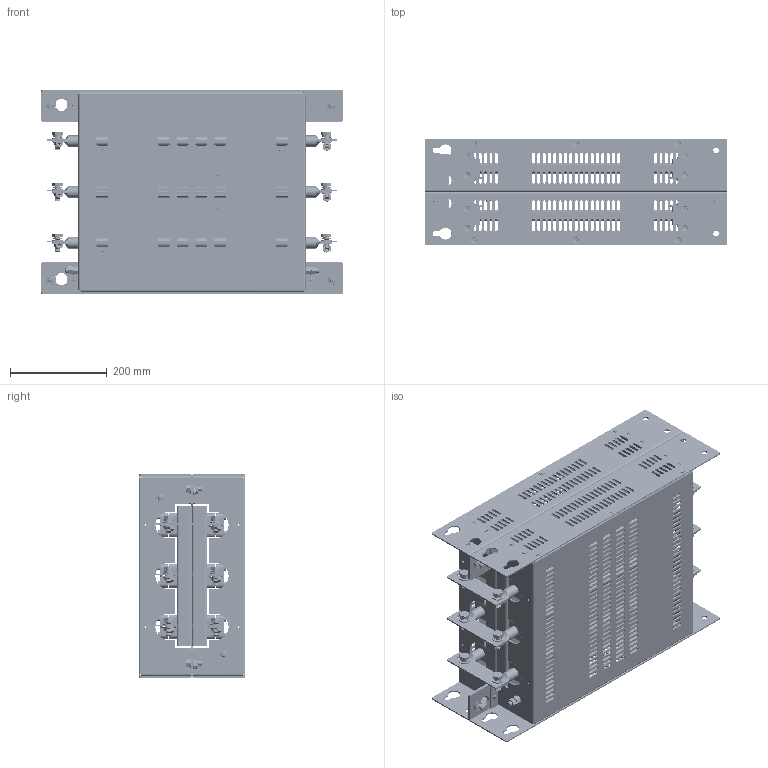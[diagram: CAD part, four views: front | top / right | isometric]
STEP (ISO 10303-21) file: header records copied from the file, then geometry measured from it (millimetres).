
FILE_DESCRIPTION (( 'STEP AP214' ), '1' );
FILE_NAME ('MIF3800.STEP', '2015-01-20T15:34:16', ( '' ), ( '' ), 'SwSTEP 2.0', 'SolidWorks 2014', '' );
FILE_SCHEMA (( 'AUTOMOTIVE_DESIGN' ));
Length unit declared in the file: millimetre
Products named in the file (30): CBA003; CBA003-SCR; CBA003-BODY; BOX281; PEM HFH-M10-30 ZI--C_PEM HFH-M10-30 ZI--C; WSH149; ISO 4017 - M10 x 25-N_ISO 4017 - M10 x 25-N; PEM S-M4-1 ZI--N_PEM S-M4-1 ZI--N; PEM SS-M5-1 ZI--N_PEM SS-M5-1 ZI--N; SCR229_SCR229; WSH142; BOX695; WSH167; PEM SSS-4mm-16 ZI (555 412)_PEM SSS-4mm-16 ZI (555 412); COP425; PEM S-M6-0 ZI--N_PEM S-M6-0 ZI--N; MIF3400_MIF3800 VIEW; PEM FH-M6-12 ZI--S_PEM FH-M6-12 ZI--S; SCR239_SCR239; PEM FH-M5-15 ZI--S_PEM FH-M5-15 ZI--S; NUT103_NUT103; PEM SO-M4-12 ZI--N_PEM SO-M4-12 ZI--N; NUT53; NUT63; WSH140; MIF3800; WSH144; COP426
Assembly tree (195 placements, depth 4):
  MIF3800
    MIF3400_MIF3800 VIEW  x2
      BOX695
        BOX695
        PEM SO-M4-12 ZI--N_PEM SO-M4-12 ZI--N  x6
        PEM FH-M5-15 ZI--S_PEM FH-M5-15 ZI--S  x12
        PEM FH-M6-12 ZI--S_PEM FH-M6-12 ZI--S  x4
        PEM S-M6-0 ZI--N_PEM S-M6-0 ZI--N  x12
        PEM SSS-4mm-16 ZI (555 412)_PEM SSS-4mm-16 ZI (555 412)  x11
      BOX281
        BOX281
        PEM SS-M5-1 ZI--N_PEM SS-M5-1 ZI--N  x14
        PEM S-M4-1 ZI--N_PEM S-M4-1 ZI--N  x4
        PEM HFH-M10-30 ZI--C_PEM HFH-M10-30 ZI--C  x2
        PEM SSS-4mm-16 ZI (555 412)_PEM SSS-4mm-16 ZI (555 412)
      CBA003
        CBA003-BODY
        CBA003-SCR  x2
      COP426
      WSH144
      WSH140
      NUT63
      NUT53
      NUT103_NUT103
      SCR239_SCR239
    COP425  x6
    WSH167  x12
    WSH144  x16
    NUT103_NUT103  x16
    WSH142  x4
    SCR229_SCR229  x12
    ISO 4017 - M10 x 25-N_ISO 4017 - M10 x 25-N  x4
    WSH149  x12
Bounding box: 625 x 220 x 420 mm (x, y, z)
Volume: 4508265.4 mm3; surface area: 3558373.9 mm2
Topology: 330 solids, 330 shells, 27986 faces, 75516 edges, 48832 vertices
Faces by surface type: plane 14002, cylinder 7516, cone 6100, torus 184, bspline 184
Entity records: 115124 total; most frequent: CARTESIAN_POINT 26217, DIRECTION 18536, ORIENTED_EDGE 17916, EDGE_CURVE 8958, AXIS2_PLACEMENT_3D 6475, VERTEX_POINT 5847, LINE 5586, VECTOR 5586
